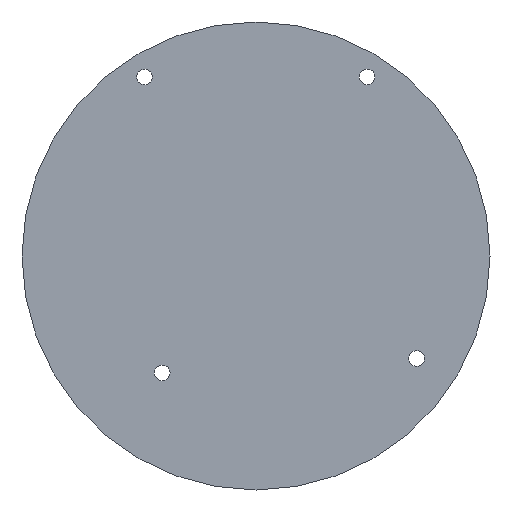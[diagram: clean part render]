
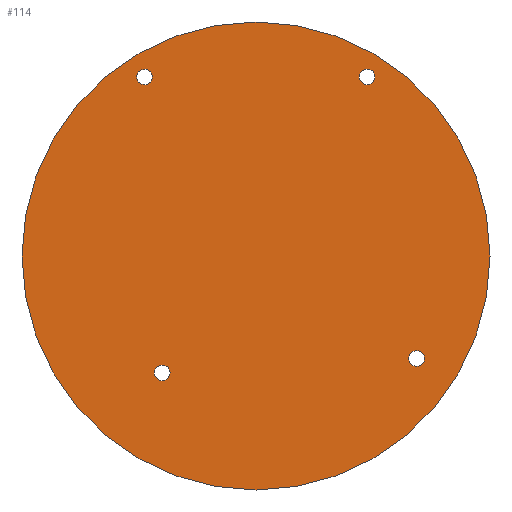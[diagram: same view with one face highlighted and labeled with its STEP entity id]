
A CAD part, front view. The second image highlights one B-rep face of the part: STEP entity #114.
In plain terms, the highlighted planar face has unit normal (0, -1, 0).
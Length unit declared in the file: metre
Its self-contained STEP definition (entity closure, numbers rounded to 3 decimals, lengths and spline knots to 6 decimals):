
#12=PLANE('',#144);
#24=ORIENTED_EDGE('',*,*,#40,.F.);
#25=ORIENTED_EDGE('',*,*,#38,.F.);
#26=ORIENTED_EDGE('',*,*,#36,.F.);
#27=ORIENTED_EDGE('',*,*,#34,.F.);
#28=ORIENTED_EDGE('',*,*,#42,.T.);
#34=EDGE_CURVE('',#44,#44,#54,.T.);
#36=EDGE_CURVE('',#46,#46,#56,.T.);
#38=EDGE_CURVE('',#48,#48,#58,.T.);
#40=EDGE_CURVE('',#50,#50,#60,.T.);
#42=EDGE_CURVE('',#52,#52,#62,.T.);
#44=VERTEX_POINT('',#185);
#46=VERTEX_POINT('',#190);
#48=VERTEX_POINT('',#195);
#50=VERTEX_POINT('',#200);
#52=VERTEX_POINT('',#205);
#54=CIRCLE('',#130,0.001);
#56=CIRCLE('',#133,0.001);
#58=CIRCLE('',#136,0.001);
#60=CIRCLE('',#139,0.001);
#62=CIRCLE('',#142,0.03);
#74=EDGE_LOOP('',(#24));
#75=EDGE_LOOP('',(#25));
#76=EDGE_LOOP('',(#26));
#77=EDGE_LOOP('',(#27));
#78=EDGE_LOOP('',(#28));
#94=FACE_BOUND('',#74,.T.);
#95=FACE_BOUND('',#75,.T.);
#96=FACE_BOUND('',#76,.T.);
#97=FACE_BOUND('',#77,.T.);
#98=FACE_BOUND('',#78,.T.);
#114=ADVANCED_FACE('',(#94,#95,#96,#97,#98),#12,.T.);
#130=AXIS2_PLACEMENT_3D('',#184,#150,#151);
#133=AXIS2_PLACEMENT_3D('',#189,#156,#157);
#136=AXIS2_PLACEMENT_3D('',#194,#162,#163);
#139=AXIS2_PLACEMENT_3D('',#199,#168,#169);
#142=AXIS2_PLACEMENT_3D('',#204,#174,#175);
#144=AXIS2_PLACEMENT_3D('',#208,#178,#179);
#150=DIRECTION('',(0.,-1.,0.));
#151=DIRECTION('',(0.,0.,-1.));
#156=DIRECTION('',(0.,-1.,0.));
#157=DIRECTION('',(0.,0.,-1.));
#162=DIRECTION('',(0.,-1.,0.));
#163=DIRECTION('',(0.,0.,-1.));
#168=DIRECTION('',(0.,-1.,0.));
#169=DIRECTION('',(0.,0.,-1.));
#174=DIRECTION('',(0.,-1.,0.));
#175=DIRECTION('',(0.,0.,-1.));
#178=DIRECTION('',(0.,-1.,0.));
#179=DIRECTION('',(1.,0.,0.));
#184=CARTESIAN_POINT('',(-0.014275,-0.0034,0.02295));
#185=CARTESIAN_POINT('',(-0.014275,-0.0034,0.02195));
#189=CARTESIAN_POINT('',(0.014249,-0.0034,0.022971));
#190=CARTESIAN_POINT('',(0.014249,-0.0034,0.021971));
#194=CARTESIAN_POINT('',(0.020599,-0.0034,-0.01315));
#195=CARTESIAN_POINT('',(0.020599,-0.0034,-0.01415));
#199=CARTESIAN_POINT('',(-0.012026,-0.0034,-0.014975));
#200=CARTESIAN_POINT('',(-0.012026,-0.0034,-0.015975));
#204=CARTESIAN_POINT('',(0.,-0.0034,0.));
#205=CARTESIAN_POINT('',(0.,-0.0034,-0.03));
#208=CARTESIAN_POINT('',(0.,-0.0034,0.));
